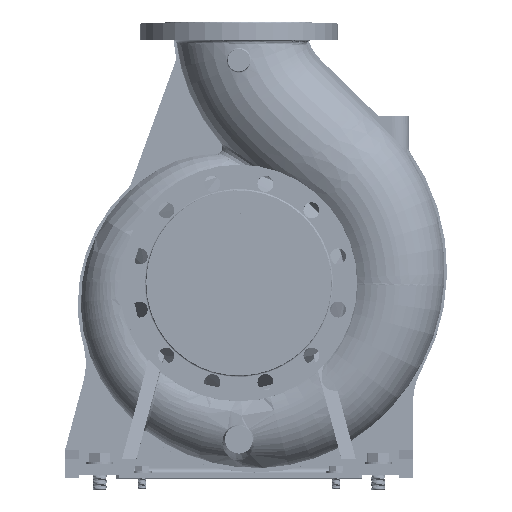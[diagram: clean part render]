
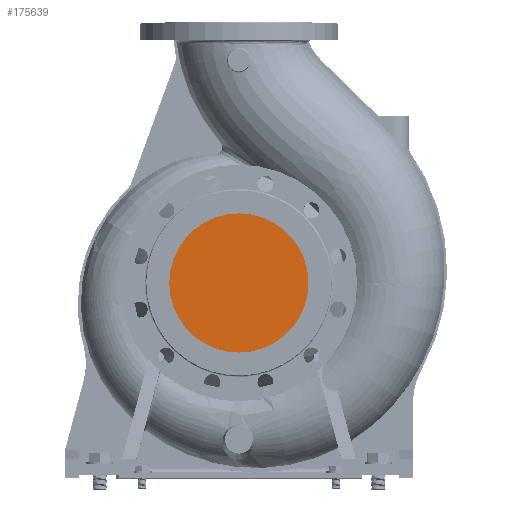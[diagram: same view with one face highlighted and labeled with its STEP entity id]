
A CAD part, top view. The second image highlights one B-rep face of the part: STEP entity #175639.
In plain terms, the highlighted planar face has unit normal (0, 0, 1).
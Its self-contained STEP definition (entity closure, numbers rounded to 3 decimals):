
#17087 = EDGE_LOOP ( 'NONE', ( #130122, #194292 ) ) ;
#21962 = CARTESIAN_POINT ( 'NONE',  ( -100., 0., 155. ) ) ;
#25619 = CIRCLE ( 'NONE', #111399, 100. ) ;
#33855 = VERTEX_POINT ( 'NONE', #157491 ) ;
#50231 = EDGE_CURVE ( 'NONE', #33855, #70772, #25619, .T. ) ;
#51479 = DIRECTION ( 'NONE',  ( 1., 0., 0. ) ) ;
#70772 = VERTEX_POINT ( 'NONE', #21962 ) ;
#77872 = CARTESIAN_POINT ( 'NONE',  ( -101.2, -101.2, 155. ) ) ;
#89120 = AXIS2_PLACEMENT_3D ( 'NONE', #227201, #190098, #205493 ) ;
#109005 = DIRECTION ( 'NONE',  ( 0., 0., -1. ) ) ;
#111399 = AXIS2_PLACEMENT_3D ( 'NONE', #203639, #109005, #111483 ) ;
#111483 = DIRECTION ( 'NONE',  ( 1., 0., 0. ) ) ;
#129483 = PLANE ( 'NONE',  #181522 ) ;
#130122 = ORIENTED_EDGE ( 'NONE', *, *, #50231, .F. ) ;
#157491 = CARTESIAN_POINT ( 'NONE',  ( 100., 0., 155. ) ) ;
#175639 = ADVANCED_FACE ( 'NONE', ( #226685 ), #129483, .T. ) ;
#181522 = AXIS2_PLACEMENT_3D ( 'NONE', #77872, #195552, #51479 ) ;
#190098 = DIRECTION ( 'NONE',  ( 0., 0., -1. ) ) ;
#194292 = ORIENTED_EDGE ( 'NONE', *, *, #194544, .F. ) ;
#194544 = EDGE_CURVE ( 'NONE', #70772, #33855, #199416, .T. ) ;
#195552 = DIRECTION ( 'NONE',  ( 0., 0., 1. ) ) ;
#199416 = CIRCLE ( 'NONE', #89120, 100. ) ;
#203639 = CARTESIAN_POINT ( 'NONE',  ( 0., 0., 155. ) ) ;
#205493 = DIRECTION ( 'NONE',  ( 1., 0., 0. ) ) ;
#226685 = FACE_OUTER_BOUND ( 'NONE', #17087, .T. ) ;
#227201 = CARTESIAN_POINT ( 'NONE',  ( 0., 0., 155. ) ) ;
